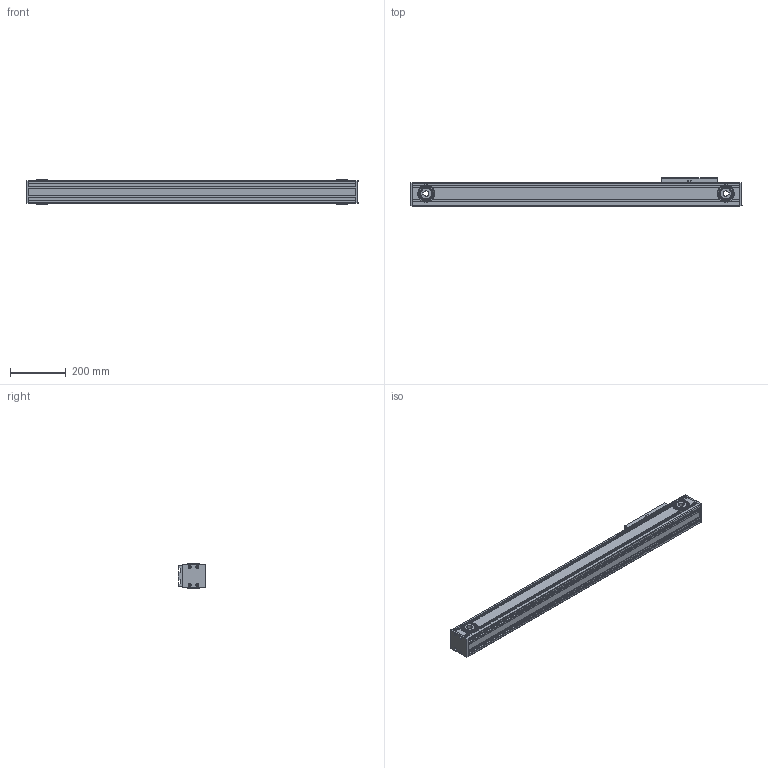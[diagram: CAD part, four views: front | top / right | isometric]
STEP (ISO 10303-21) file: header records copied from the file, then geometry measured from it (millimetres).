
FILE_DESCRIPTION (( 'STEP AP214' ), '1' );
FILE_NAME ('TKR80-800A1-F0-R3-高速内滚轮直线模组.step', '2025-10-10T03:26:21', ( '' ), ( '' ), 'SwSTEP 2.0', 'SolidWorks 2024', '' );
FILE_SCHEMA (( 'AUTOMOTIVE_DESIGN' ));
Length unit declared in the file: millimetre
Products named in the file (3): TKR80-800A1-F0-R3-高速内滚轮直线模组; TKR80-800-R3-01; TKR80-R3-02
Assembly tree (2 placements, depth 2):
  TKR80-800A1-F0-R3-高速内滚轮直线模组
    TKR80-800-R3-01
    TKR80-R3-02
Bounding box: 1186 x 100 x 87 mm (x, y, z)
Volume: 3581647.9 mm3; surface area: 1416563.9 mm2
Topology: 1 solids, 52 shells, 2499 faces, 6775 edges, 4338 vertices
Faces by surface type: cylinder 1279, plane 770, torus 244, cone 182, sphere 24
Entity records: 120687 total; most frequent: CARTESIAN_POINT 31465, ORIENTED_EDGE 13382, DIRECTION 13179, EDGE_CURVE 6731, AXIS2_PLACEMENT_3D 5137, VERTEX_POINT 4338, LINE 2905, VECTOR 2905
